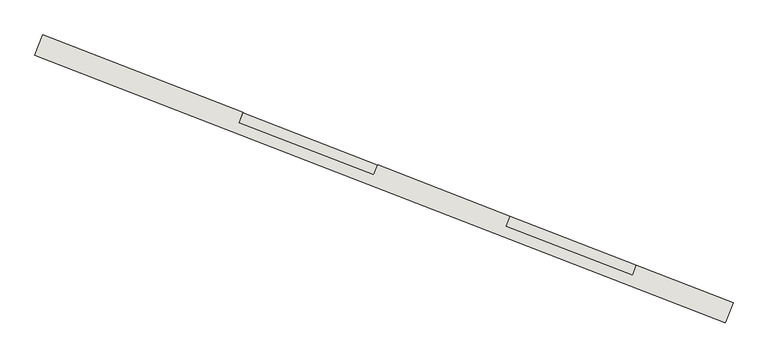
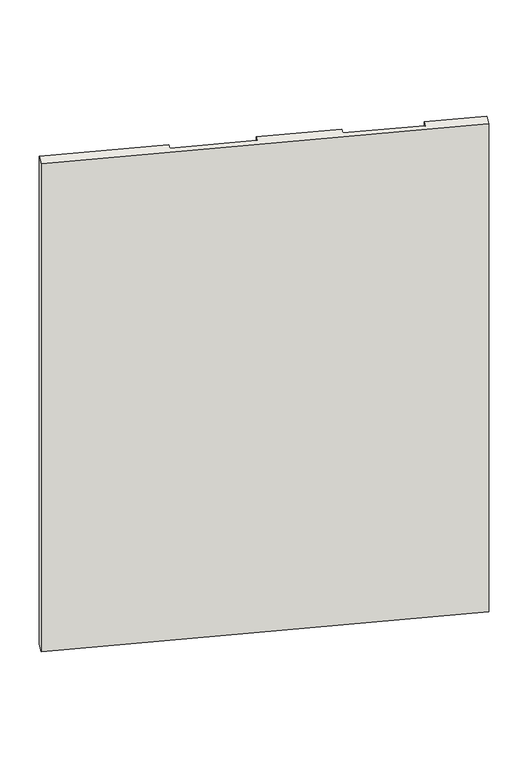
"""IFC4 building model written with IfcOpenShell, lengths in millimetres: wall geometry, kamposite10 : kamposite2."""

from ifc_helpers import new_model, si_unit, origin, place, context, project, spatial, faceted_brep, source, transform, mapped, element, save


def wall_9a3caf44(model_context):
    return source(origin(), model_context, "Body", "Brep", [
        faceted_brep([(-250.3748169, 15163.2898207, 2500.0), (-250.3748169, 15163.2898207, -2000.0), (2938.093022, 13926.3286894, -2000.0), (2938.093022, 13926.3286894, 2500.0), (2974.2614761, 14019.5587432, 2500.0), (2974.2614761, 14019.5587432, 1720.5733633), (2528.06193, 14192.661162, 1720.5733633), (2528.06193, 14192.661162, 2500.0), (2974.2614761, 14019.5587432, 1670.5733633), (2974.2614761, 14019.5587432, -38.4266367), (2528.06193, 14192.661162, -38.4266367), (2528.06193, 14192.661162, 1670.5733633), (1333.1327149, 14656.2320897, 2500.0), (1942.8904543, 14419.6775245, 2500.0), (1942.8904543, 14419.6775245, 1720.5733633), (1333.1327149, 14656.2320897, 1720.5733633), (1333.1327149, 14656.2320897, 1670.5733633), (1942.8904543, 14419.6775245, 1670.5733633), (1942.8904543, 14419.6775245, -38.4266367), (1333.1327149, 14656.2320897, -38.4266367), (2974.2614761, 14019.5587432, -2000.0), (-214.2063627, 15256.5198745, -2000.0), (-214.2063627, 15256.5198745, 2500.0), (709.2620227, 14898.2617529, 2500.0), (709.2620227, 14898.2617529, 1720.5733633), (-211.8999426, 15255.6251024, 1720.5733633), (-211.8999426, 15255.6251024, 1670.5733633), (709.2620227, 14898.2617529, 1670.5733633), (709.2620227, 14898.2617529, -38.4266367), (-211.8999426, 15255.6251024, -38.4266367), (-211.8999426, 15255.6251024, -88.4266367), (709.2620227, 14898.2617529, -88.4266367), (709.2620227, 14898.2617529, -1542.6655104), (1333.1327149, 14656.2320897, -1542.6655104), (1333.1327149, 14656.2320897, -88.4266367), (1942.8904543, 14419.6775245, -88.4266367), (1942.8904543, 14419.6775245, -1512.9996419), (2528.06193, 14192.661162, -1512.9996419), (2528.06193, 14192.661162, -88.4266367), (2974.2614761, 14019.5587432, -88.4266367), (2956.1772491, 13972.9437163, -88.4266367), (2956.1772491, 13972.9437163, -38.4266367), (2956.1772491, 13972.9437163, 1670.5733633), (2956.1772491, 13972.9437163, 1720.5733633), (2509.977703, 14146.0461351, 2500.0), (1924.8062272, 14373.0624976, 2500.0), (1315.0484878, 14609.6170628, 2500.0), (691.1777956, 14851.646726, 2500.0), (-229.9841696, 15209.0100755, 1670.5733633), (-229.9841696, 15209.0100755, 1720.5733633), (691.1777956, 14851.646726, 1720.5733633), (1315.0484878, 14609.6170628, 1720.5733633), (1924.8062272, 14373.0624976, 1720.5733633), (2509.977703, 14146.0461351, 1720.5733633), (2509.977703, 14146.0461351, 1670.5733633), (2509.977703, 14146.0461351, -38.4266367), (2509.977703, 14146.0461351, -88.4266367), (2509.977703, 14146.0461351, -1512.9996419), (1924.8062272, 14373.0624976, -1512.9996419), (1924.8062272, 14373.0624976, -88.4266367), (1315.0484878, 14609.6170628, -88.4266367), (1315.0484878, 14609.6170628, -1542.6655104), (691.1777956, 14851.646726, -1542.6655104), (691.1777956, 14851.646726, -88.4266367), (-229.9841696, 15209.0100755, -88.4266367), (-229.9841696, 15209.0100755, -38.4266367), (691.1777956, 14851.646726, -38.4266367), (691.1777956, 14851.646726, 1670.5733633), (1924.8062272, 14373.0624976, 1670.5733633), (1315.0484878, 14609.6170628, 1670.5733633), (1315.0484878, 14609.6170628, -38.4266367), (1924.8062272, 14373.0624976, -38.4266367)], [[[0, 1, 2, 3]], [[4, 5, 6, 7]], [[8, 9, 10, 11]], [[12, 13, 14, 15]], [[16, 17, 18, 19]], [[20, 21, 22, 23, 24, 25, 26, 27, 28, 29, 30, 31, 32, 33, 34, 35, 36, 37, 38, 39]], [[1, 0, 22, 21]], [[2, 1, 21, 20]], [[3, 2, 20, 39, 40, 41, 9, 8, 42, 43, 5, 4]], [[0, 3, 4, 7, 44, 45, 13, 12, 46, 47, 23, 22]], [[48, 49, 50, 47, 46, 51, 52, 45, 44, 53, 43, 42, 54, 55, 41, 40, 56, 57, 58, 59, 60, 61, 62, 63, 64, 65, 66, 67], [68, 69, 70, 71]], [[49, 48, 26, 25]], [[17, 16, 69, 68]], [[42, 8, 11, 54]], [[26, 48, 67, 27]], [[15, 14, 52, 51]], [[5, 43, 53, 6]], [[49, 25, 24, 50]], [[65, 64, 30, 29]], [[35, 34, 60, 59]], [[40, 39, 38, 56]], [[30, 64, 63, 31]], [[19, 18, 71, 70]], [[9, 41, 55, 10]], [[65, 29, 28, 66]], [[45, 52, 14, 13]], [[68, 71, 18, 17]], [[58, 36, 35, 59]], [[53, 44, 7, 6]], [[55, 54, 11, 10]], [[37, 57, 56, 38]], [[47, 50, 24, 23]], [[67, 66, 28, 27]], [[62, 32, 31, 63]], [[51, 46, 12, 15]], [[70, 69, 16, 19]], [[33, 61, 60, 34]], [[58, 57, 37, 36]], [[62, 61, 33, 32]]]),
    ])


if __name__ == "__main__":
    model = new_model("IFC4")
    model_context = context("Model", 3, world=origin())
    ifc_project = project(units=[si_unit("LENGTHUNIT", "METRE", prefix="MILLI")], contexts=[model_context])
    site = spatial("IfcSite", under=ifc_project)
    building = spatial("IfcBuilding", under=site)
    placement = place(None, origin())
    wall_shape = wall_9a3caf44(model_context)
    element("IfcWall", 1, ObjectType="kamposite10 : kamposite2", at=placement, inside=building, context=model_context, shape_type="MappedRepresentation", body=[
        mapped(wall_shape, transform((0.0, 0.0, 0.0), x_axis=(1.0, 0.0, 0.0), y_axis=(0.0, 1.0, 0.0), z_axis=(0.0, 0.0, 1.0))),
    ])
    save(model, "model.ifc")
